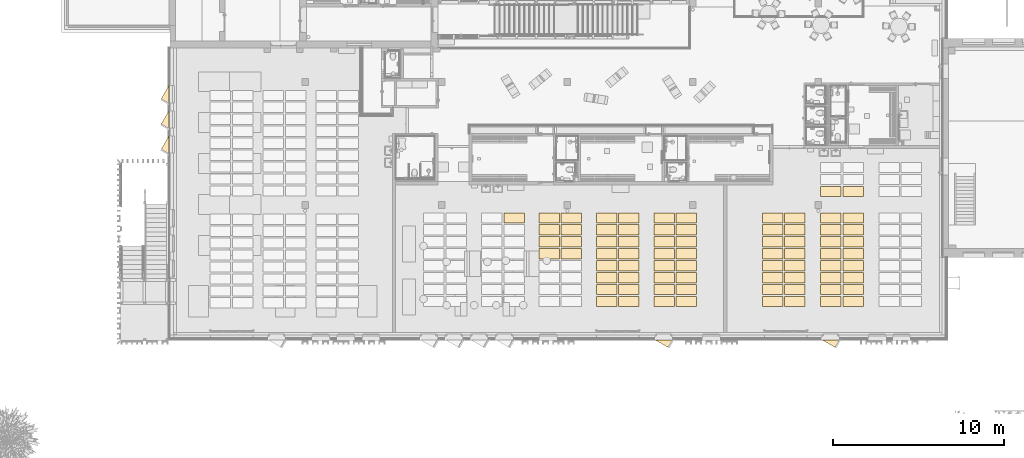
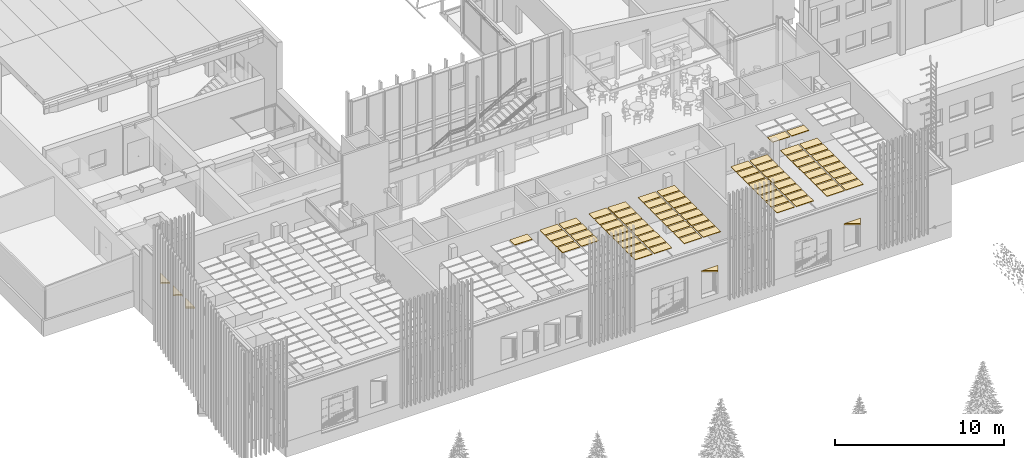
# One storey, part 232 of 301: 80 coverings.
"""IFC2X3 building model written with IfcOpenShell, lengths in millimetres."""

from ifc_helpers import new_model, entity, si_unit, converted_unit, derived_unit, money_unit, direction, frame, origin_with_axes, place, context, subcontext, project, spatial, faceted_brep, material, type_object, element, save


model = new_model("IFC2X3")

# Units and contexts
model_context = context("Model", 3, precision=0.01, world=origin_with_axes(), true_north=direction((0.0, 1.0)))
body_context = subcontext(model_context, "Body", "Model", "MODEL_VIEW")
ifc_project = project(units=[si_unit("LENGTHUNIT", "METRE", prefix="MILLI"), si_unit("AREAUNIT", "SQUARE_METRE"), si_unit("VOLUMEUNIT", "CUBIC_METRE"), converted_unit("PLANEANGLEUNIT", "DEGREE", entity("IfcPlaneAngleMeasure", 0.0174532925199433), si_unit("PLANEANGLEUNIT", "RADIAN"), dimensions=[0, 0, 0, 0, 0, 0, 0]), money_unit("EUR"), converted_unit("TIMEUNIT", "Year", entity("IfcTimeMeasure", 31557600.0), si_unit("TIMEUNIT", "SECOND"), dimensions=[0, 0, 1, 0, 0, 0, 0]), si_unit("MASSUNIT", "GRAM", prefix="KILO"), si_unit("THERMODYNAMICTEMPERATUREUNIT", "DEGREE_CELSIUS"), si_unit("LUMINOUSINTENSITYUNIT", "LUMEN"), si_unit("ENERGYUNIT", "JOULE", prefix="MEGA"), derived_unit("THERMALCONDUCTANCEUNIT", [(si_unit("POWERUNIT", "WATT"), 1), (si_unit("LENGTHUNIT", "METRE"), -1), (si_unit("THERMODYNAMICTEMPERATUREUNIT", "KELVIN"), -1)]), derived_unit("SPECIFICHEATCAPACITYUNIT", [(si_unit("ENERGYUNIT", "JOULE"), 1), (si_unit("MASSUNIT", "GRAM", prefix="KILO"), -1), (si_unit("THERMODYNAMICTEMPERATUREUNIT", "KELVIN"), -1)]), derived_unit("MASSDENSITYUNIT", [(si_unit("MASSUNIT", "GRAM", prefix="KILO"), 1), (si_unit("VOLUMEUNIT", "CUBIC_METRE"), -1)])], contexts=[model_context])

# Site, building, storey
site_placement = place(None, frame((0.0, 0.0, 8650.0), z_axis=(0.0, 0.0, 1.0), x_axis=(1.0, 0.0, 0.0)))
site = spatial("IfcSite", under=ifc_project, at=site_placement, Name="43301:001:0844", CompositionType="ELEMENT")
building_placement = place(site_placement, origin_with_axes())
building = spatial("IfcBuilding", under=site, at=building_placement, Name="Kuressaare Ametikooli tuulikute mehaanikute õppekorpus", CompositionType="ELEMENT")
storey_placement = place(building_placement, origin_with_axes())
storey = spatial("IfcBuildingStorey", under=building, at=storey_placement, Name="1.korrus", CompositionType="ELEMENT", Elevation=0.0)

# Coverings
ifc_material = material(Name="GENEERILINE - KONSTRUKTRIOON")
covering_type_1 = type_object("IfcCoveringType", Name="GENEERILINE - KONSTRUKTRIOON 100", PredefinedType="NOTDEFINED")
for number, where, z_axis, x_axis in (
    (1, (117468.0422381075, 8686.83849054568, 2710.0), (0.0, 0.0, 1.0), (1.0, 0.0, 0.0)),
    (2, (127243.161220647, 8686.838490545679, 2710.0), (0.0, 0.0, 1.0), (1.0, 0.0, 0.0)),
):
    element("IfcCovering", number, at=place(storey_placement, frame(where, z_axis=z_axis, x_axis=x_axis)), inside=storey, type_object=covering_type_1, material=ifc_material, Name="Akna varjestus", PredefinedType="NOTDEFINED", context=body_context, shape_type="Brep", body=[
        faceted_brep([(0.0, 0.0, 0.0), (0.0, 0.0, -100.0000000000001), (-1125.092708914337, 0.0, -100.0000000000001), (-1125.092708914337, 0.0, 0.0), (-275.7309844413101, -483.937335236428, 0.0), (-275.7309844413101, -483.937335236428, -100.0000000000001)], [[[0, 1, 2, 3]], [[4, 5, 1, 0]], [[2, 1, 5]], [[3, 2, 5, 4]], [[4, 0, 3]]]),
    ])
for number, where, z_axis, x_axis in (
    (3, (87881.22664518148, 22448.97621503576, 3485.000000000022), (0.0, 0.0, 1.0), (1.0, 0.0, 0.0)),
    (4, (87881.2266451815, 20973.97621503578, 3485.000000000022), (0.0, 0.0, 1.0), (1.0, 0.0, 0.0)),
    (5, (87881.2266451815, 19498.97621503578, 3485.000000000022), (0.0, 0.0, 1.0), (1.0, 0.0, 0.0)),
):
    element("IfcCovering", number, at=place(storey_placement, frame(where, z_axis=z_axis, x_axis=x_axis)), inside=storey, type_object=covering_type_1, material=ifc_material, Name="Akna varjestus", PredefinedType="NOTDEFINED", context=body_context, shape_type="Brep", body=[
        faceted_brep([(0.0, 0.0, 0.0), (0.0, 0.0, -100.0000000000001), (0.0, 1125.092708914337, -100.0000000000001), (0.0, 1125.092708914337, 0.0), (-483.9373352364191, 275.7309844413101, 0.0), (-483.9373352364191, 275.7309844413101, -100.0000000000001)], [[[0, 1, 2, 3]], [[4, 5, 1, 0]], [[2, 1, 5]], [[3, 2, 5, 4]], [[4, 0, 3]]]),
    ])
covering_type_2 = type_object("IfcCoveringType", Name="GENEERILINE - KONSTRUKTRIOON 40", PredefinedType="CEILING")
for number, where, z_axis, x_axis, name in (
    (6, (128560.0, 13424.99999999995, 3530.0), (0.0, 0.0, 1.0), (1.0, 0.0, 0.0), "RL3"),
    (7, (128560.0, 14124.99999999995, 3530.0), (0.0, 0.0, 1.0), (1.0, 0.0, 0.0), "RL3"),
    (8, (128560.0, 14824.99999999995, 3530.0), (0.0, 0.0, 1.0), (1.0, 0.0, 0.0), "RL3"),
    (9, (128560.0, 12724.99999999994, 3530.0), (0.0, 0.0, 1.0), (1.0, 0.0, 0.0), "RL3"),
):
    element("IfcCovering", number, at=place(storey_placement, frame(where, z_axis=z_axis, x_axis=x_axis)), inside=storey, type_object=covering_type_2, material=ifc_material, Name=name, PredefinedType="CEILING", context=body_context, shape_type="Brep", body=[
        faceted_brep([(0.0, 0.0, 0.0), (0.0, 0.0, -40.00000000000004), (0.0, 599.9999999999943, -40.00000000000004), (0.0, 599.9999999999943, 0.0), (-1200.000000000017, 0.0, 0.0), (-1200.000000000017, 0.0, -40.00000000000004), (-1200.000000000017, 599.9999999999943, -40.00000000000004), (-1200.000000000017, 599.9999999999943, 0.0)], [[[0, 1, 2, 3]], [[4, 5, 1, 0]], [[2, 1, 5, 6]], [[3, 2, 6, 7]], [[4, 0, 3, 7]], [[7, 6, 5, 4]]]),
    ])
for number, where, z_axis, x_axis, name in (
    (10, (127260.0, 13424.99999999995, 3530.0), (0.0, 0.0, 1.0), (1.0, 0.0, 0.0), "RL3"),
    (11, (127260.0, 14124.99999999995, 3530.0), (0.0, 0.0, 1.0), (1.0, 0.0, 0.0), "RL3"),
    (12, (127260.0, 14824.99999999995, 3530.0), (0.0, 0.0, 1.0), (1.0, 0.0, 0.0), "RL3"),
    (13, (127260.0, 12724.99999999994, 3530.0), (0.0, 0.0, 1.0), (1.0, 0.0, 0.0), "RL3"),
):
    element("IfcCovering", number, at=place(storey_placement, frame(where, z_axis=z_axis, x_axis=x_axis)), inside=storey, type_object=covering_type_2, material=ifc_material, Name=name, PredefinedType="CEILING", context=body_context, shape_type="Brep", body=[
        faceted_brep([(0.0, 0.0, 0.0), (0.0, 0.0, -40.00000000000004), (0.0, 599.9999999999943, -40.00000000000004), (0.0, 599.9999999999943, 0.0), (-1200.000000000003, 0.0, 0.0), (-1200.000000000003, 0.0, -40.00000000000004), (-1200.000000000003, 599.9999999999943, -40.00000000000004), (-1200.000000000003, 599.9999999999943, 0.0)], [[[0, 1, 2, 3]], [[4, 5, 1, 0]], [[2, 1, 5, 6]], [[3, 2, 6, 7]], [[4, 0, 3, 7]], [[7, 6, 5, 4]]]),
    ])
for number, where, z_axis, x_axis, name in (
    (14, (128560.0, 12024.99999999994, 3530.0), (0.0, 0.0, 1.0), (1.0, 0.0, 0.0), "RL3"),
    (15, (128560.0, 11324.99999999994, 3530.0), (0.0, 0.0, 1.0), (1.0, 0.0, 0.0), "RL3"),
):
    element("IfcCovering", number, at=place(storey_placement, frame(where, z_axis=z_axis, x_axis=x_axis)), inside=storey, type_object=covering_type_2, material=ifc_material, Name=name, PredefinedType="CEILING", context=body_context, shape_type="Brep", body=[
        faceted_brep([(0.0, 0.0, 0.0), (0.0, 0.0, -40.00000000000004), (0.0, 599.9999999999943, -40.00000000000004), (0.0, 599.9999999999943, 0.0), (-1200.000000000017, 0.0, 0.0), (-1200.000000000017, 0.0, -40.00000000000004), (-1200.000000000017, 599.9999999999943, -40.00000000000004), (-1200.000000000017, 599.9999999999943, 0.0)], [[[0, 1, 2, 3]], [[4, 5, 1, 0]], [[2, 1, 5, 6]], [[3, 2, 6, 7]], [[4, 0, 3, 7]], [[7, 6, 5, 4]]]),
    ])
for number, where, z_axis, x_axis, name in (
    (16, (127260.0, 12024.99999999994, 3530.0), (0.0, 0.0, 1.0), (1.0, 0.0, 0.0), "RL3"),
    (17, (127260.0, 11324.99999999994, 3530.0), (0.0, 0.0, 1.0), (1.0, 0.0, 0.0), "RL3"),
):
    element("IfcCovering", number, at=place(storey_placement, frame(where, z_axis=z_axis, x_axis=x_axis)), inside=storey, type_object=covering_type_2, material=ifc_material, Name=name, PredefinedType="CEILING", context=body_context, shape_type="Brep", body=[
        faceted_brep([(0.0, 0.0, 0.0), (0.0, 0.0, -40.00000000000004), (0.0, 599.9999999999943, -40.00000000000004), (0.0, 599.9999999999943, 0.0), (-1200.000000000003, 0.0, 0.0), (-1200.000000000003, 0.0, -40.00000000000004), (-1200.000000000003, 599.9999999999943, -40.00000000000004), (-1200.000000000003, 599.9999999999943, 0.0)], [[[0, 1, 2, 3]], [[4, 5, 1, 0]], [[2, 1, 5, 6]], [[3, 2, 6, 7]], [[4, 0, 3, 7]], [[7, 6, 5, 4]]]),
    ])
covering_1_placement = place(storey_placement, frame((128560.0, 15524.99999999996, 3530.0), z_axis=(0.0, 0.0, 1.0), x_axis=(1.0, 0.0, 0.0)))
element("IfcCovering", 18, at=covering_1_placement, inside=storey, type_object=covering_type_2, material=ifc_material, Name="RL3", PredefinedType="CEILING", context=body_context, shape_type="Brep", body=[
    faceted_brep([(0.0, 0.0, 0.0), (0.0, 0.0, -40.00000000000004), (0.0, 599.9999999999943, -40.00000000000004), (0.0, 599.9999999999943, 0.0), (-1200.000000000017, 0.0, 0.0), (-1200.000000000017, 0.0, -40.00000000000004), (-1200.000000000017, 599.9999999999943, -40.00000000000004), (-1200.000000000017, 599.9999999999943, 0.0)], [[[0, 1, 2, 3]], [[4, 5, 1, 0]], [[2, 1, 5, 6]], [[3, 2, 6, 7]], [[4, 0, 3, 7]], [[7, 6, 5, 4]]]),
])
covering_2_placement = place(storey_placement, frame((127260.0, 15524.99999999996, 3530.0), z_axis=(0.0, 0.0, 1.0), x_axis=(1.0, 0.0, 0.0)))
element("IfcCovering", 19, at=covering_2_placement, inside=storey, type_object=covering_type_2, material=ifc_material, Name="RL3", PredefinedType="CEILING", context=body_context, shape_type="Brep", body=[
    faceted_brep([(0.0, 0.0, 0.0), (0.0, 0.0, -40.00000000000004), (0.0, 599.9999999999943, -40.00000000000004), (0.0, 599.9999999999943, 0.0), (-1200.000000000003, 0.0, 0.0), (-1200.000000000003, 0.0, -40.00000000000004), (-1200.000000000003, 599.9999999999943, -40.00000000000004), (-1200.000000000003, 599.9999999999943, 0.0)], [[[0, 1, 2, 3]], [[4, 5, 1, 0]], [[2, 1, 5, 6]], [[3, 2, 6, 7]], [[4, 0, 3, 7]], [[7, 6, 5, 4]]]),
])
covering_3_placement = place(storey_placement, frame((128560.0, 10624.99999999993, 3530.0), z_axis=(0.0, 0.0, 1.0), x_axis=(1.0, 0.0, 0.0)))
element("IfcCovering", 20, at=covering_3_placement, inside=storey, type_object=covering_type_2, material=ifc_material, Name="RL3", PredefinedType="CEILING", context=body_context, shape_type="Brep", body=[
    faceted_brep([(0.0, 0.0, 0.0), (0.0, 0.0, -40.00000000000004), (0.0, 599.9999999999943, -40.00000000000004), (0.0, 599.9999999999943, 0.0), (-1200.000000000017, 0.0, 0.0), (-1200.000000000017, 0.0, -40.00000000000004), (-1200.000000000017, 599.9999999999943, -40.00000000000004), (-1200.000000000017, 599.9999999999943, 0.0)], [[[0, 1, 2, 3]], [[4, 5, 1, 0]], [[2, 1, 5, 6]], [[3, 2, 6, 7]], [[4, 0, 3, 7]], [[7, 6, 5, 4]]]),
])
covering_4_placement = place(storey_placement, frame((127260.0, 10624.99999999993, 3530.0), z_axis=(0.0, 0.0, 1.0), x_axis=(1.0, 0.0, 0.0)))
element("IfcCovering", 21, at=covering_4_placement, inside=storey, type_object=covering_type_2, material=ifc_material, Name="RL3", PredefinedType="CEILING", context=body_context, shape_type="Brep", body=[
    faceted_brep([(0.0, 0.0, 0.0), (0.0, 0.0, -40.00000000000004), (0.0, 599.9999999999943, -40.00000000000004), (0.0, 599.9999999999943, 0.0), (-1200.000000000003, 0.0, 0.0), (-1200.000000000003, 0.0, -40.00000000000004), (-1200.000000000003, 599.9999999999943, -40.00000000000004), (-1200.000000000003, 599.9999999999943, 0.0)], [[[0, 1, 2, 3]], [[4, 5, 1, 0]], [[2, 1, 5, 6]], [[3, 2, 6, 7]], [[4, 0, 3, 7]], [[7, 6, 5, 4]]]),
])
covering_5_placement = place(storey_placement, frame((128560.0, 17674.04687498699, 3530.0), z_axis=(0.0, 0.0, 1.0), x_axis=(1.0, 0.0, 0.0)))
element("IfcCovering", 22, at=covering_5_placement, inside=storey, type_object=covering_type_2, material=ifc_material, Name="RL3", PredefinedType="CEILING", context=body_context, shape_type="Brep", body=[
    faceted_brep([(0.0, 0.0, 0.0), (0.0, 0.0, -40.00000000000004), (-1200.000000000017, 0.0, -40.00000000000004), (-1200.000000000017, 0.0, 0.0), (0.0, -599.9999999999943, 0.0), (0.0, -599.9999999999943, -40.00000000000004), (-1200.000000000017, -599.9999999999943, -40.00000000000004), (-1200.000000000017, -599.9999999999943, 0.0)], [[[0, 1, 2, 3]], [[4, 5, 1, 0]], [[2, 1, 5, 6]], [[3, 2, 6, 7]], [[4, 0, 3, 7]], [[7, 6, 5, 4]]]),
])
covering_6_placement = place(storey_placement, frame((127260.0, 17674.04687498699, 3530.0), z_axis=(0.0, 0.0, 1.0), x_axis=(1.0, 0.0, 0.0)))
element("IfcCovering", 23, at=covering_6_placement, inside=storey, type_object=covering_type_2, material=ifc_material, Name="RL3", PredefinedType="CEILING", context=body_context, shape_type="Brep", body=[
    faceted_brep([(0.0, 0.0, 0.0), (0.0, 0.0, -40.00000000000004), (-1200.000000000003, 0.0, -40.00000000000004), (-1200.000000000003, 0.0, 0.0), (0.0, -599.9999999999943, 0.0), (0.0, -599.9999999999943, -40.00000000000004), (-1200.000000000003, -599.9999999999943, -40.00000000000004), (-1200.000000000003, -599.9999999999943, 0.0)], [[[0, 1, 2, 3]], [[4, 5, 1, 0]], [[2, 1, 5, 6]], [[3, 2, 6, 7]], [[4, 0, 3, 7]], [[7, 6, 5, 4]]]),
])
for number, where, z_axis, x_axis, name in (
    (24, (122648.2030130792, 13424.99999999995, 3530.0), (0.0, 0.0, 1.0), (1.0, 0.0, 0.0), "RL3"),
    (25, (122648.2030130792, 14124.99999999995, 3530.0), (0.0, 0.0, 1.0), (1.0, 0.0, 0.0), "RL3"),
    (26, (122648.2030130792, 14824.99999999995, 3530.0), (0.0, 0.0, 1.0), (1.0, 0.0, 0.0), "RL3"),
    (27, (122648.2030130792, 12724.99999999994, 3530.0), (0.0, 0.0, 1.0), (1.0, 0.0, 0.0), "RL3"),
):
    element("IfcCovering", number, at=place(storey_placement, frame(where, z_axis=z_axis, x_axis=x_axis)), inside=storey, type_object=covering_type_2, material=ifc_material, Name=name, PredefinedType="CEILING", context=body_context, shape_type="Brep", body=[
        faceted_brep([(0.0, 0.0, 0.0), (0.0, 0.0, -40.00000000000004), (1200.000000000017, 0.0, -40.00000000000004), (1200.000000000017, 0.0, 0.0), (0.0, 599.9999999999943, 0.0), (0.0, 599.9999999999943, -40.00000000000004), (1200.000000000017, 599.9999999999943, -40.00000000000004), (1200.000000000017, 599.9999999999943, 0.0)], [[[0, 1, 2, 3]], [[4, 5, 1, 0]], [[2, 1, 5, 6]], [[3, 2, 6, 7]], [[4, 0, 3, 7]], [[7, 6, 5, 4]]]),
    ])
for number, where, z_axis, x_axis, name in (
    (28, (123948.2030130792, 13424.99999999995, 3530.0), (0.0, 0.0, 1.0), (1.0, 0.0, 0.0), "RL3"),
    (29, (123948.2030130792, 14124.99999999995, 3530.0), (0.0, 0.0, 1.0), (1.0, 0.0, 0.0), "RL3"),
    (30, (123948.2030130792, 14824.99999999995, 3530.0), (0.0, 0.0, 1.0), (1.0, 0.0, 0.0), "RL3"),
    (31, (123948.2030130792, 12724.99999999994, 3530.0), (0.0, 0.0, 1.0), (1.0, 0.0, 0.0), "RL3"),
):
    element("IfcCovering", number, at=place(storey_placement, frame(where, z_axis=z_axis, x_axis=x_axis)), inside=storey, type_object=covering_type_2, material=ifc_material, Name=name, PredefinedType="CEILING", context=body_context, shape_type="Brep", body=[
        faceted_brep([(0.0, 0.0, 0.0), (0.0, 0.0, -40.00000000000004), (1200.000000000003, 0.0, -40.00000000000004), (1200.000000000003, 0.0, 0.0), (0.0, 599.9999999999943, 0.0), (0.0, 599.9999999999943, -40.00000000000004), (1200.000000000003, 599.9999999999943, -40.00000000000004), (1200.000000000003, 599.9999999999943, 0.0)], [[[0, 1, 2, 3]], [[4, 5, 1, 0]], [[2, 1, 5, 6]], [[3, 2, 6, 7]], [[4, 0, 3, 7]], [[7, 6, 5, 4]]]),
    ])
for number, where, z_axis, x_axis, name in (
    (32, (122648.2030130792, 12024.99999999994, 3530.0), (0.0, 0.0, 1.0), (1.0, 0.0, 0.0), "RL3"),
    (33, (122648.2030130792, 11324.99999999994, 3530.0), (0.0, 0.0, 1.0), (1.0, 0.0, 0.0), "RL3"),
):
    element("IfcCovering", number, at=place(storey_placement, frame(where, z_axis=z_axis, x_axis=x_axis)), inside=storey, type_object=covering_type_2, material=ifc_material, Name=name, PredefinedType="CEILING", context=body_context, shape_type="Brep", body=[
        faceted_brep([(0.0, 0.0, 0.0), (0.0, 0.0, -40.00000000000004), (1200.000000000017, 0.0, -40.00000000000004), (1200.000000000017, 0.0, 0.0), (0.0, 599.9999999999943, 0.0), (0.0, 599.9999999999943, -40.00000000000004), (1200.000000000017, 599.9999999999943, -40.00000000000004), (1200.000000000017, 599.9999999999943, 0.0)], [[[0, 1, 2, 3]], [[4, 5, 1, 0]], [[2, 1, 5, 6]], [[3, 2, 6, 7]], [[4, 0, 3, 7]], [[7, 6, 5, 4]]]),
    ])
for number, where, z_axis, x_axis, name in (
    (34, (123948.2030130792, 12024.99999999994, 3530.0), (0.0, 0.0, 1.0), (1.0, 0.0, 0.0), "RL3"),
    (35, (123948.2030130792, 11324.99999999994, 3530.0), (0.0, 0.0, 1.0), (1.0, 0.0, 0.0), "RL3"),
):
    element("IfcCovering", number, at=place(storey_placement, frame(where, z_axis=z_axis, x_axis=x_axis)), inside=storey, type_object=covering_type_2, material=ifc_material, Name=name, PredefinedType="CEILING", context=body_context, shape_type="Brep", body=[
        faceted_brep([(0.0, 0.0, 0.0), (0.0, 0.0, -40.00000000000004), (1200.000000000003, 0.0, -40.00000000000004), (1200.000000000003, 0.0, 0.0), (0.0, 599.9999999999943, 0.0), (0.0, 599.9999999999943, -40.00000000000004), (1200.000000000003, 599.9999999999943, -40.00000000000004), (1200.000000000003, 599.9999999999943, 0.0)], [[[0, 1, 2, 3]], [[4, 5, 1, 0]], [[2, 1, 5, 6]], [[3, 2, 6, 7]], [[4, 0, 3, 7]], [[7, 6, 5, 4]]]),
    ])
covering_7_placement = place(storey_placement, frame((122648.2030130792, 15524.99999999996, 3530.0), z_axis=(0.0, 0.0, 1.0), x_axis=(1.0, 0.0, 0.0)))
element("IfcCovering", 36, at=covering_7_placement, inside=storey, type_object=covering_type_2, material=ifc_material, Name="RL3", PredefinedType="CEILING", context=body_context, shape_type="Brep", body=[
    faceted_brep([(0.0, 0.0, 0.0), (0.0, 0.0, -40.00000000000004), (1200.000000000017, 0.0, -40.00000000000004), (1200.000000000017, 0.0, 0.0), (0.0, 599.9999999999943, 0.0), (0.0, 599.9999999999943, -40.00000000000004), (1200.000000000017, 599.9999999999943, -40.00000000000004), (1200.000000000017, 599.9999999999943, 0.0)], [[[0, 1, 2, 3]], [[4, 5, 1, 0]], [[2, 1, 5, 6]], [[3, 2, 6, 7]], [[4, 0, 3, 7]], [[7, 6, 5, 4]]]),
])
covering_8_placement = place(storey_placement, frame((123948.2030130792, 15524.99999999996, 3530.0), z_axis=(0.0, 0.0, 1.0), x_axis=(1.0, 0.0, 0.0)))
element("IfcCovering", 37, at=covering_8_placement, inside=storey, type_object=covering_type_2, material=ifc_material, Name="RL3", PredefinedType="CEILING", context=body_context, shape_type="Brep", body=[
    faceted_brep([(0.0, 0.0, 0.0), (0.0, 0.0, -40.00000000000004), (1200.000000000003, 0.0, -40.00000000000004), (1200.000000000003, 0.0, 0.0), (0.0, 599.9999999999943, 0.0), (0.0, 599.9999999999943, -40.00000000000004), (1200.000000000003, 599.9999999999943, -40.00000000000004), (1200.000000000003, 599.9999999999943, 0.0)], [[[0, 1, 2, 3]], [[4, 5, 1, 0]], [[2, 1, 5, 6]], [[3, 2, 6, 7]], [[4, 0, 3, 7]], [[7, 6, 5, 4]]]),
])
covering_9_placement = place(storey_placement, frame((122648.2030130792, 10624.99999999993, 3530.0), z_axis=(0.0, 0.0, 1.0), x_axis=(1.0, 0.0, 0.0)))
element("IfcCovering", 38, at=covering_9_placement, inside=storey, type_object=covering_type_2, material=ifc_material, Name="RL3", PredefinedType="CEILING", context=body_context, shape_type="Brep", body=[
    faceted_brep([(0.0, 0.0, 0.0), (0.0, 0.0, -40.00000000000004), (1200.000000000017, 0.0, -40.00000000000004), (1200.000000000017, 0.0, 0.0), (0.0, 599.9999999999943, 0.0), (0.0, 599.9999999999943, -40.00000000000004), (1200.000000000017, 599.9999999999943, -40.00000000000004), (1200.000000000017, 599.9999999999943, 0.0)], [[[0, 1, 2, 3]], [[4, 5, 1, 0]], [[2, 1, 5, 6]], [[3, 2, 6, 7]], [[4, 0, 3, 7]], [[7, 6, 5, 4]]]),
])
covering_10_placement = place(storey_placement, frame((123948.2030130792, 10624.99999999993, 3530.0), z_axis=(0.0, 0.0, 1.0), x_axis=(1.0, 0.0, 0.0)))
element("IfcCovering", 39, at=covering_10_placement, inside=storey, type_object=covering_type_2, material=ifc_material, Name="RL3", PredefinedType="CEILING", context=body_context, shape_type="Brep", body=[
    faceted_brep([(0.0, 0.0, 0.0), (0.0, 0.0, -40.00000000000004), (1200.000000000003, 0.0, -40.00000000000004), (1200.000000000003, 0.0, 0.0), (0.0, 599.9999999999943, 0.0), (0.0, 599.9999999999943, -40.00000000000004), (1200.000000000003, 599.9999999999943, -40.00000000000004), (1200.000000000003, 599.9999999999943, 0.0)], [[[0, 1, 2, 3]], [[4, 5, 1, 0]], [[2, 1, 5, 6]], [[3, 2, 6, 7]], [[4, 0, 3, 7]], [[7, 6, 5, 4]]]),
])
covering_11_placement = place(storey_placement, frame((108700.0, 15524.99999999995, 3530.0), z_axis=(0.0, 0.0, 1.0), x_axis=(1.0, 0.0, 0.0)))
element("IfcCovering", 40, at=covering_11_placement, inside=storey, type_object=covering_type_2, material=ifc_material, Name="RL3", PredefinedType="CEILING", context=body_context, shape_type="Brep", body=[
    faceted_brep([(0.0, 0.0, 0.0), (0.0, 0.0, -40.00000000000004), (0.0, 599.9999999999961, -40.00000000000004), (0.0, 599.9999999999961, 0.0), (-1200.000000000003, 0.0, 0.0), (-1200.000000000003, 0.0, -40.00000000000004), (-1200.000000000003, 599.9999999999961, -40.00000000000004), (-1200.000000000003, 599.9999999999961, 0.0)], [[[0, 1, 2, 3]], [[4, 5, 1, 0]], [[2, 1, 5, 6]], [[3, 2, 6, 7]], [[4, 0, 3, 7]], [[7, 6, 5, 4]]]),
])
for number, where, z_axis, x_axis, name in (
    (41, (112062.5, 13424.99999999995, 3530.0), (0.0, 0.0, 1.0), (1.0, 0.0, 0.0), "RL3"),
    (42, (112062.5, 14124.99999999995, 3530.0), (0.0, 0.0, 1.0), (1.0, 0.0, 0.0), "RL3"),
    (43, (110762.5, 14124.99999999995, 3530.0), (0.0, 0.0, 1.0), (1.0, 0.0, 0.0), "RL3"),
    (44, (110762.5, 13424.99999999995, 3530.0), (0.0, 0.0, 1.0), (1.0, 0.0, 0.0), "RL3"),
    (45, (112062.5, 14824.99999999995, 3530.0), (0.0, 0.0, 1.0), (1.0, 0.0, 0.0), "RL3"),
):
    element("IfcCovering", number, at=place(storey_placement, frame(where, z_axis=z_axis, x_axis=x_axis)), inside=storey, type_object=covering_type_2, material=ifc_material, Name=name, PredefinedType="CEILING", context=body_context, shape_type="Brep", body=[
        faceted_brep([(0.0, 0.0, 0.0), (0.0, 0.0, -40.00000000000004), (0.0, 599.9999999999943, -40.00000000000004), (0.0, 599.9999999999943, 0.0), (-1200.000000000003, 0.0, 0.0), (-1200.000000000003, 0.0, -40.00000000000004), (-1200.000000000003, 599.9999999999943, -40.00000000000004), (-1200.000000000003, 599.9999999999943, 0.0)], [[[0, 1, 2, 3]], [[4, 5, 1, 0]], [[2, 1, 5, 6]], [[3, 2, 6, 7]], [[4, 0, 3, 7]], [[7, 6, 5, 4]]]),
    ])
covering_12_placement = place(storey_placement, frame((112062.5, 15524.99999999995, 3530.0), z_axis=(0.0, 0.0, 1.0), x_axis=(1.0, 0.0, 0.0)))
element("IfcCovering", 46, at=covering_12_placement, inside=storey, type_object=covering_type_2, material=ifc_material, Name="RL3", PredefinedType="CEILING", context=body_context, shape_type="Brep", body=[
    faceted_brep([(0.0, 0.0, 0.0), (0.0, 0.0, -40.00000000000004), (0.0, 599.9999999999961, -40.00000000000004), (0.0, 599.9999999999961, 0.0), (-1200.000000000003, 0.0, 0.0), (-1200.000000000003, 0.0, -40.00000000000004), (-1200.000000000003, 599.9999999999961, -40.00000000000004), (-1200.000000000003, 599.9999999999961, 0.0)], [[[0, 1, 2, 3]], [[4, 5, 1, 0]], [[2, 1, 5, 6]], [[3, 2, 6, 7]], [[4, 0, 3, 7]], [[7, 6, 5, 4]]]),
])
covering_13_placement = place(storey_placement, frame((110762.5, 14824.99999999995, 3530.0), z_axis=(0.0, 0.0, 1.0), x_axis=(1.0, 0.0, 0.0)))
element("IfcCovering", 47, at=covering_13_placement, inside=storey, type_object=covering_type_2, material=ifc_material, Name="RL3", PredefinedType="CEILING", context=body_context, shape_type="Brep", body=[
    faceted_brep([(0.0, 0.0, 0.0), (0.0, 0.0, -40.00000000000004), (0.0, 599.9999999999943, -40.00000000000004), (0.0, 599.9999999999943, 0.0), (-1200.000000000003, 0.0, 0.0), (-1200.000000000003, 0.0, -40.00000000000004), (-1200.000000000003, 599.9999999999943, -40.00000000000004), (-1200.000000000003, 599.9999999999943, 0.0)], [[[0, 1, 2, 3]], [[4, 5, 1, 0]], [[2, 1, 5, 6]], [[3, 2, 6, 7]], [[4, 0, 3, 7]], [[7, 6, 5, 4]]]),
])
covering_14_placement = place(storey_placement, frame((110762.5, 15524.99999999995, 3530.0), z_axis=(0.0, 0.0, 1.0), x_axis=(1.0, 0.0, 0.0)))
element("IfcCovering", 48, at=covering_14_placement, inside=storey, type_object=covering_type_2, material=ifc_material, Name="RL3", PredefinedType="CEILING", context=body_context, shape_type="Brep", body=[
    faceted_brep([(0.0, 0.0, 0.0), (0.0, 0.0, -40.00000000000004), (0.0, 599.9999999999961, -40.00000000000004), (0.0, 599.9999999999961, 0.0), (-1200.000000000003, 0.0, 0.0), (-1200.000000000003, 0.0, -40.00000000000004), (-1200.000000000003, 599.9999999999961, -40.00000000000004), (-1200.000000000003, 599.9999999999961, 0.0)], [[[0, 1, 2, 3]], [[4, 5, 1, 0]], [[2, 1, 5, 6]], [[3, 2, 6, 7]], [[4, 0, 3, 7]], [[7, 6, 5, 4]]]),
])
for number, where, z_axis, x_axis, name in (
    (49, (115425.0, 12724.99999999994, 3530.0), (0.0, 0.0, 1.0), (1.0, 0.0, 0.0), "RL3"),
    (50, (115425.0, 13424.99999999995, 3530.0), (0.0, 0.0, 1.0), (1.0, 0.0, 0.0), "RL3"),
    (51, (115425.0, 14124.99999999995, 3530.0), (0.0, 0.0, 1.0), (1.0, 0.0, 0.0), "RL3"),
    (52, (115425.0, 12024.99999999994, 3530.0), (0.0, 0.0, 1.0), (1.0, 0.0, 0.0), "RL3"),
    (53, (114125.0, 12724.99999999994, 3530.0), (0.0, 0.0, 1.0), (1.0, 0.0, 0.0), "RL3"),
    (54, (114125.0, 13424.99999999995, 3530.0), (0.0, 0.0, 1.0), (1.0, 0.0, 0.0), "RL3"),
    (55, (114125.0, 12024.99999999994, 3530.0), (0.0, 0.0, 1.0), (1.0, 0.0, 0.0), "RL3"),
    (56, (114125.0, 14124.99999999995, 3530.0), (0.0, 0.0, 1.0), (1.0, 0.0, 0.0), "RL3"),
    (57, (115425.0, 11324.99999999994, 3530.0), (0.0, 0.0, 1.0), (1.0, 0.0, 0.0), "RL3"),
    (58, (115425.0, 10624.99999999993, 3530.0), (0.0, 0.0, 1.0), (1.0, 0.0, 0.0), "RL3"),
    (59, (114125.0, 11324.99999999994, 3530.0), (0.0, 0.0, 1.0), (1.0, 0.0, 0.0), "RL3"),
    (60, (114125.0, 10624.99999999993, 3530.0), (0.0, 0.0, 1.0), (1.0, 0.0, 0.0), "RL3"),
    (61, (115425.0, 14824.99999999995, 3530.0), (0.0, 0.0, 1.0), (1.0, 0.0, 0.0), "RL3"),
):
    element("IfcCovering", number, at=place(storey_placement, frame(where, z_axis=z_axis, x_axis=x_axis)), inside=storey, type_object=covering_type_2, material=ifc_material, Name=name, PredefinedType="CEILING", context=body_context, shape_type="Brep", body=[
        faceted_brep([(0.0, 0.0, 0.0), (0.0, 0.0, -40.00000000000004), (0.0, 599.9999999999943, -40.00000000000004), (0.0, 599.9999999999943, 0.0), (-1200.000000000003, 0.0, 0.0), (-1200.000000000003, 0.0, -40.00000000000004), (-1200.000000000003, 599.9999999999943, -40.00000000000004), (-1200.000000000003, 599.9999999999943, 0.0)], [[[0, 1, 2, 3]], [[4, 5, 1, 0]], [[2, 1, 5, 6]], [[3, 2, 6, 7]], [[4, 0, 3, 7]], [[7, 6, 5, 4]]]),
    ])
covering_15_placement = place(storey_placement, frame((115425.0, 15524.99999999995, 3530.0), z_axis=(0.0, 0.0, 1.0), x_axis=(1.0, 0.0, 0.0)))
element("IfcCovering", 62, at=covering_15_placement, inside=storey, type_object=covering_type_2, material=ifc_material, Name="RL3", PredefinedType="CEILING", context=body_context, shape_type="Brep", body=[
    faceted_brep([(0.0, 0.0, 0.0), (0.0, 0.0, -40.00000000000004), (0.0, 599.9999999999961, -40.00000000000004), (0.0, 599.9999999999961, 0.0), (-1200.000000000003, 0.0, 0.0), (-1200.000000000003, 0.0, -40.00000000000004), (-1200.000000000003, 599.9999999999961, -40.00000000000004), (-1200.000000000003, 599.9999999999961, 0.0)], [[[0, 1, 2, 3]], [[4, 5, 1, 0]], [[2, 1, 5, 6]], [[3, 2, 6, 7]], [[4, 0, 3, 7]], [[7, 6, 5, 4]]]),
])
for number, where, z_axis, x_axis, name in (
    (63, (114125.0, 14824.99999999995, 3530.0), (0.0, 0.0, 1.0), (1.0, 0.0, 0.0), "RL3"),
    (64, (118787.5, 12724.99999999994, 3530.0), (0.0, 0.0, 1.0), (1.0, 0.0, 0.0), "RL3"),
):
    element("IfcCovering", number, at=place(storey_placement, frame(where, z_axis=z_axis, x_axis=x_axis)), inside=storey, type_object=covering_type_2, material=ifc_material, Name=name, PredefinedType="CEILING", context=body_context, shape_type="Brep", body=[
        faceted_brep([(0.0, 0.0, 0.0), (0.0, 0.0, -40.00000000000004), (0.0, 599.9999999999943, -40.00000000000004), (0.0, 599.9999999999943, 0.0), (-1200.000000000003, 0.0, 0.0), (-1200.000000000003, 0.0, -40.00000000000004), (-1200.000000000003, 599.9999999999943, -40.00000000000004), (-1200.000000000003, 599.9999999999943, 0.0)], [[[0, 1, 2, 3]], [[4, 5, 1, 0]], [[2, 1, 5, 6]], [[3, 2, 6, 7]], [[4, 0, 3, 7]], [[7, 6, 5, 4]]]),
    ])
covering_16_placement = place(storey_placement, frame((114125.0, 15524.99999999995, 3530.0), z_axis=(0.0, 0.0, 1.0), x_axis=(1.0, 0.0, 0.0)))
element("IfcCovering", 65, at=covering_16_placement, inside=storey, type_object=covering_type_2, material=ifc_material, Name="RL3", PredefinedType="CEILING", context=body_context, shape_type="Brep", body=[
    faceted_brep([(0.0, 0.0, 0.0), (0.0, 0.0, -40.00000000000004), (0.0, 599.9999999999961, -40.00000000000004), (0.0, 599.9999999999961, 0.0), (-1200.000000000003, 0.0, 0.0), (-1200.000000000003, 0.0, -40.00000000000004), (-1200.000000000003, 599.9999999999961, -40.00000000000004), (-1200.000000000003, 599.9999999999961, 0.0)], [[[0, 1, 2, 3]], [[4, 5, 1, 0]], [[2, 1, 5, 6]], [[3, 2, 6, 7]], [[4, 0, 3, 7]], [[7, 6, 5, 4]]]),
])
for number, where, z_axis, x_axis, name in (
    (66, (118787.5, 13424.99999999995, 3530.0), (0.0, 0.0, 1.0), (1.0, 0.0, 0.0), "RL3"),
    (67, (118787.5, 14124.99999999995, 3530.0), (0.0, 0.0, 1.0), (1.0, 0.0, 0.0), "RL3"),
    (68, (118787.5, 12024.99999999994, 3530.0), (0.0, 0.0, 1.0), (1.0, 0.0, 0.0), "RL3"),
    (69, (117487.5, 12724.99999999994, 3530.0), (0.0, 0.0, 1.0), (1.0, 0.0, 0.0), "RL3"),
    (70, (117487.5, 13424.99999999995, 3530.0), (0.0, 0.0, 1.0), (1.0, 0.0, 0.0), "RL3"),
    (71, (117487.5, 12024.99999999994, 3530.0), (0.0, 0.0, 1.0), (1.0, 0.0, 0.0), "RL3"),
    (72, (117487.5, 14124.99999999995, 3530.0), (0.0, 0.0, 1.0), (1.0, 0.0, 0.0), "RL3"),
    (73, (118787.5, 11324.99999999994, 3530.0), (0.0, 0.0, 1.0), (1.0, 0.0, 0.0), "RL3"),
    (74, (118787.5, 10624.99999999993, 3530.0), (0.0, 0.0, 1.0), (1.0, 0.0, 0.0), "RL3"),
    (75, (117487.5, 11324.99999999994, 3530.0), (0.0, 0.0, 1.0), (1.0, 0.0, 0.0), "RL3"),
    (76, (117487.5, 10624.99999999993, 3530.0), (0.0, 0.0, 1.0), (1.0, 0.0, 0.0), "RL3"),
    (77, (118787.5, 14824.99999999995, 3530.0), (0.0, 0.0, 1.0), (1.0, 0.0, 0.0), "RL3"),
):
    element("IfcCovering", number, at=place(storey_placement, frame(where, z_axis=z_axis, x_axis=x_axis)), inside=storey, type_object=covering_type_2, material=ifc_material, Name=name, PredefinedType="CEILING", context=body_context, shape_type="Brep", body=[
        faceted_brep([(0.0, 0.0, 0.0), (0.0, 0.0, -40.00000000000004), (0.0, 599.9999999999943, -40.00000000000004), (0.0, 599.9999999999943, 0.0), (-1200.000000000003, 0.0, 0.0), (-1200.000000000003, 0.0, -40.00000000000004), (-1200.000000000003, 599.9999999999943, -40.00000000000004), (-1200.000000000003, 599.9999999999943, 0.0)], [[[0, 1, 2, 3]], [[4, 5, 1, 0]], [[2, 1, 5, 6]], [[3, 2, 6, 7]], [[4, 0, 3, 7]], [[7, 6, 5, 4]]]),
    ])
covering_17_placement = place(storey_placement, frame((118787.5, 15524.99999999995, 3530.0), z_axis=(0.0, 0.0, 1.0), x_axis=(1.0, 0.0, 0.0)))
element("IfcCovering", 78, at=covering_17_placement, inside=storey, type_object=covering_type_2, material=ifc_material, Name="RL3", PredefinedType="CEILING", context=body_context, shape_type="Brep", body=[
    faceted_brep([(0.0, 0.0, 0.0), (0.0, 0.0, -40.00000000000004), (0.0, 599.9999999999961, -40.00000000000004), (0.0, 599.9999999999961, 0.0), (-1200.000000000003, 0.0, 0.0), (-1200.000000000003, 0.0, -40.00000000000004), (-1200.000000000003, 599.9999999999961, -40.00000000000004), (-1200.000000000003, 599.9999999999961, 0.0)], [[[0, 1, 2, 3]], [[4, 5, 1, 0]], [[2, 1, 5, 6]], [[3, 2, 6, 7]], [[4, 0, 3, 7]], [[7, 6, 5, 4]]]),
])
covering_18_placement = place(storey_placement, frame((117487.5, 14824.99999999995, 3530.0), z_axis=(0.0, 0.0, 1.0), x_axis=(1.0, 0.0, 0.0)))
element("IfcCovering", 79, at=covering_18_placement, inside=storey, type_object=covering_type_2, material=ifc_material, Name="RL3", PredefinedType="CEILING", context=body_context, shape_type="Brep", body=[
    faceted_brep([(0.0, 0.0, 0.0), (0.0, 0.0, -40.00000000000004), (0.0, 599.9999999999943, -40.00000000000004), (0.0, 599.9999999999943, 0.0), (-1200.000000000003, 0.0, 0.0), (-1200.000000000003, 0.0, -40.00000000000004), (-1200.000000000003, 599.9999999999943, -40.00000000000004), (-1200.000000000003, 599.9999999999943, 0.0)], [[[0, 1, 2, 3]], [[4, 5, 1, 0]], [[2, 1, 5, 6]], [[3, 2, 6, 7]], [[4, 0, 3, 7]], [[7, 6, 5, 4]]]),
])
covering_19_placement = place(storey_placement, frame((117487.5, 15524.99999999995, 3530.0), z_axis=(0.0, 0.0, 1.0), x_axis=(1.0, 0.0, 0.0)))
element("IfcCovering", 80, at=covering_19_placement, inside=storey, type_object=covering_type_2, material=ifc_material, Name="RL3", PredefinedType="CEILING", context=body_context, shape_type="Brep", body=[
    faceted_brep([(0.0, 0.0, 0.0), (0.0, 0.0, -40.00000000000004), (0.0, 599.9999999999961, -40.00000000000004), (0.0, 599.9999999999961, 0.0), (-1200.000000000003, 0.0, 0.0), (-1200.000000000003, 0.0, -40.00000000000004), (-1200.000000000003, 599.9999999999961, -40.00000000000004), (-1200.000000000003, 599.9999999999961, 0.0)], [[[0, 1, 2, 3]], [[4, 5, 1, 0]], [[2, 1, 5, 6]], [[3, 2, 6, 7]], [[4, 0, 3, 7]], [[7, 6, 5, 4]]]),
])

save(model, "model.ifc")
